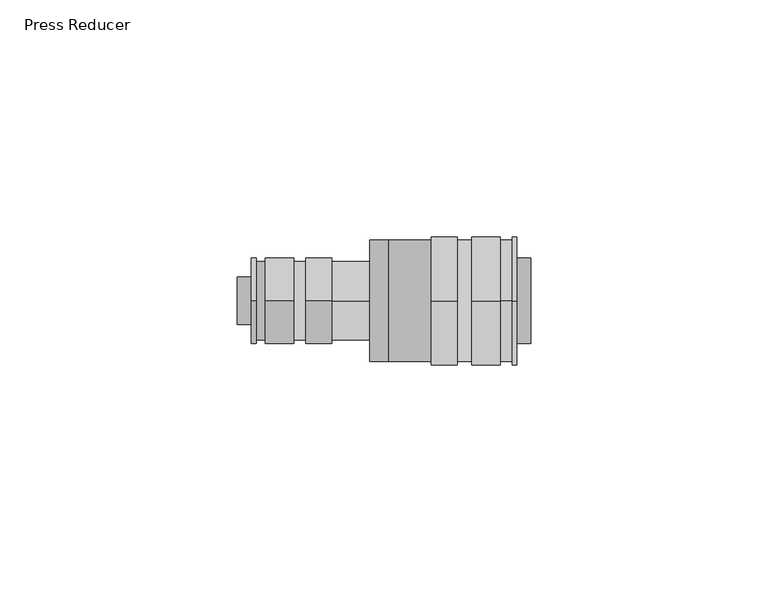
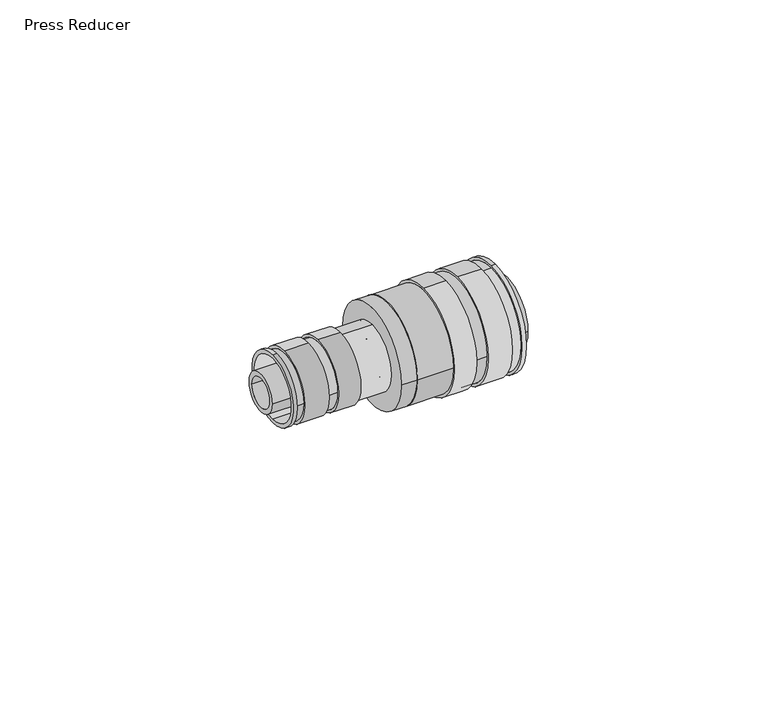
"""IFC4 building model written with IfcOpenShell, lengths in millimetres: pipe fitting geometry, Press Reducer : Superpipe Press Reducer."""

import ifcopenshell
import ifcopenshell.guid

model = None  # the IFC model being written
_history = None  # IfcOwnerHistory: only IFC2X3 demands one
_inside = {}  # id of a spatial element -> (the spatial element, [elements in it])
_under = {}  # id of a project, library or spatial element -> (it, [spatial elements below it])
_declared = {}  # id of a project -> (the project, [libraries it declares])
_typed = {}  # id of a type object -> (the type object, [elements of that type])
_made_of = {}  # id of a material, layer set ... -> (it, [elements and type objects made of it])


def new_model(schema):
    """Start an empty IFC model of exactly this schema.

    Asked for "IFC4X3", IfcOpenShell would pick the latest addendum, in which some entities
    have other attributes; the version numbers below select the first issue.
    IFC2X3 requires an IfcOwnerHistory on every rooted entity: one is made here for all.
    """
    global model, _history
    if schema == "IFC4X3":
        model = ifcopenshell.file(schema_version=(4, 3, 0, 0))
    else:
        model = ifcopenshell.file(schema=schema)
    _inside.clear()
    _under.clear()
    _declared.clear()
    _typed.clear()
    _made_of.clear()
    _history = None
    if model.schema == "IFC2X3":
        org = make("IfcOrganization", Name="unknown")
        user = make(
            "IfcPersonAndOrganization",
            ThePerson=make("IfcPerson", FamilyName="unknown"),
            TheOrganization=org,
        )
        app = make(
            "IfcApplication",
            ApplicationDeveloper=org,
            Version="unknown",
            ApplicationFullName="unknown",
            ApplicationIdentifier="unknown",
        )
        _history = make(
            "IfcOwnerHistory",
            OwningUser=user,
            OwningApplication=app,
            ChangeAction="ADDED",
            CreationDate=0,
        )
    return model


def make(cls, **values):
    """One entity of the class cls with the attributes given. An attribute that is None is left unset."""
    return model.create_entity(
        cls, **{name: value for name, value in values.items() if value is not None}
    )


def rooted(cls, **values):
    """An entity with a GlobalId (a new one), such as an element, a storey or a relation."""
    return make(cls, GlobalId=ifcopenshell.guid.new(), OwnerHistory=_history, **values)


def si_unit(unit_type, name, prefix=None):
    """IfcSIUnit, for example si_unit("LENGTHUNIT", "METRE", prefix="MILLI")."""
    return make("IfcSIUnit", UnitType=unit_type, Prefix=prefix, Name=name)


def assignment(units):
    """IfcUnitAssignment: the units of a project."""
    return None if units is None else make("IfcUnitAssignment", Units=units)


def point(xyz):
    """IfcCartesianPoint."""
    return None if xyz is None else make("IfcCartesianPoint", Coordinates=xyz)


def direction(xyz):
    """IfcDirection."""
    return None if xyz is None else make("IfcDirection", DirectionRatios=xyz)


def frame(location, z_axis=None, x_axis=None):
    """IfcAxis2Placement3D, a coordinate frame: its origin and axes. An axis left out is left unset."""
    return make(
        "IfcAxis2Placement3D",
        Location=point(location),
        Axis=direction(z_axis),
        RefDirection=direction(x_axis),
    )


def frame_2d(location, x_axis=None):
    """IfcAxis2Placement2D, a coordinate frame in the plane: its origin and x axis."""
    return make(
        "IfcAxis2Placement2D", Location=point(location), RefDirection=direction(x_axis)
    )


def origin():
    """The frame at (0, 0, 0) with its axes left unset."""
    return frame((0.0, 0.0, 0.0))


def place(relative_to, where):
    """IfcLocalPlacement: puts the frame where relative to a parent placement (None: the world)."""
    return make(
        "IfcLocalPlacement", PlacementRelTo=relative_to, RelativePlacement=where
    )


def context(
    kind, dimensions, precision=None, world=None, true_north=None, identifier=None
):
    """IfcGeometricRepresentationContext, for example the 3D "Model" context."""
    return make(
        "IfcGeometricRepresentationContext",
        ContextIdentifier=identifier,
        ContextType=kind,
        CoordinateSpaceDimension=dimensions,
        Precision=precision,
        WorldCoordinateSystem=world,
        TrueNorth=true_north,
    )


def project(units=None, contexts=None):
    """IfcProject with its units and contexts."""
    return rooted(
        "IfcProject",
        Name="project",
        RepresentationContexts=contexts,
        UnitsInContext=assignment(units),
    )


def spatial(cls, under=None, at=None, **own):
    """A site, building, storey or space (cls), placed at a placement, below another one or the project."""
    s = rooted(cls, ObjectPlacement=at, **own)
    if under is not None:
        _under.setdefault(under.id(), (under, []))[1].append(s)
    return s


def polyline(points):
    """IfcPolyline through the points."""
    return make("IfcPolyline", Points=[point(p) for p in points])


def circle_curve(where, radius):
    """IfcCircle in the frame where."""
    return make("IfcCircle", Position=where, Radius=radius)


def trimmed(basis, trim1, trim2, sense, master):
    """IfcTrimmedCurve: the piece of a basis curve between two trims."""
    return make(
        "IfcTrimmedCurve",
        BasisCurve=basis,
        Trim1=trim1,
        Trim2=trim2,
        SenseAgreement=sense,
        MasterRepresentation=master,
    )


def segment(curve, same_sense, transition):
    """IfcCompositeCurveSegment."""
    return make(
        "IfcCompositeCurveSegment",
        Transition=transition,
        SameSense=same_sense,
        ParentCurve=curve,
    )


def composite_curve(segments, self_intersect=None):
    """IfcCompositeCurve: segments joined end to end."""
    return make("IfcCompositeCurve", Segments=segments, SelfIntersect=self_intersect)


def outline(outer, holes=None, kind="AREA"):
    """IfcArbitraryClosedProfileDef: a profile drawn as a closed curve; with holes, ...WithVoids."""
    if holes is None:
        return make("IfcArbitraryClosedProfileDef", ProfileType=kind, OuterCurve=outer)
    return make(
        "IfcArbitraryProfileDefWithVoids",
        ProfileType=kind,
        OuterCurve=outer,
        InnerCurves=holes,
    )


def extrude(swept, where, along, depth):
    """IfcExtrudedAreaSolid: the profile swept, set in the frame where, extruded along a direction by depth."""
    return make(
        "IfcExtrudedAreaSolid",
        SweptArea=swept,
        Position=where,
        ExtrudedDirection=direction(along),
        Depth=depth,
    )


def shape(context_of_items, identifier, shape_type, items):
    """IfcShapeRepresentation: the items that make up one representation, for example the "Body"."""
    return make(
        "IfcShapeRepresentation",
        ContextOfItems=context_of_items,
        RepresentationIdentifier=identifier,
        RepresentationType=shape_type,
        Items=items,
    )


def source(mapping_origin, context_of_items, identifier, shape_type, items):
    """IfcRepresentationMap: a shape defined once, which mapped items show again and again."""
    return make(
        "IfcRepresentationMap",
        MappingOrigin=mapping_origin,
        MappedRepresentation=shape(context_of_items, identifier, shape_type, items),
    )


def transform(
    local_origin,
    x_axis=None,
    y_axis=None,
    z_axis=None,
    scale=None,
    scale2=None,
    scale3=None,
    uniform=True,
):
    """IfcCartesianTransformationOperator3D, or its non-uniform kind. x_axis, y_axis, z_axis: its Axis1, 2, 3."""
    if uniform:
        return make(
            "IfcCartesianTransformationOperator3D",
            Axis1=direction(x_axis),
            Axis2=direction(y_axis),
            LocalOrigin=point(local_origin),
            Scale=scale,
            Axis3=direction(z_axis),
        )
    return make(
        "IfcCartesianTransformationOperator3DnonUniform",
        Axis1=direction(x_axis),
        Axis2=direction(y_axis),
        LocalOrigin=point(local_origin),
        Scale=scale,
        Axis3=direction(z_axis),
        Scale2=scale2,
        Scale3=scale3,
    )


def mapped(mapping_source, mapping_target):
    """IfcMappedItem: shows the shape of a source again, moved by a transform."""
    return make(
        "IfcMappedItem", MappingSource=mapping_source, MappingTarget=mapping_target
    )


def made_of(thing, what):
    """Note that an element or type object is made of a material, layer set ...; save() writes the relation."""
    if what is not None:
        _made_of.setdefault(what.id(), (what, []))[1].append(thing)
    return thing


def element(
    cls,
    number,
    at=None,
    inside=None,
    cuts=None,
    type_object=None,
    material=None,
    context=None,
    identifier="Body",
    shape_type=None,
    held_by="IfcProductDefinitionShape",
    body=None,
    shapes=None,
    **own,
):
    """One element of the class cls, such as IfcWall. Its Tag is "e" and its number.

    at: its placement. inside: the storey or other place that contains it. cuts: it is an
    opening in that element (IfcRelVoidsElement). A single representation is given by context,
    identifier, shape_type and body (its items); several are given by shapes. held_by: the class
    of the entity that holds the representations. save() writes the other relations.
    """
    e = rooted(cls, Tag="e%d" % number, ObjectPlacement=at, **own)
    if body is not None:
        shapes = [shape(context, identifier, shape_type, body)]
    if shapes is not None:
        e.Representation = make(held_by, Representations=shapes)
    if inside is not None:
        _inside.setdefault(inside.id(), (inside, []))[1].append(e)
    if cuts is not None:
        rooted(
            "IfcRelVoidsElement", RelatingBuildingElement=cuts, RelatedOpeningElement=e
        )
    if type_object is not None:
        _typed.setdefault(type_object.id(), (type_object, []))[1].append(e)
    return made_of(e, material)


def aggregate(whole, parts):
    """IfcRelAggregates: a whole, such as a stair, and the parts it consists of."""
    return rooted("IfcRelAggregates", RelatingObject=whole, RelatedObjects=parts)


def save(model, path):
    """Write the relations noted so far, then the file.

    IfcRelAggregates (storeys below a building ...), IfcRelContainedInSpatialStructure (elements
    in a storey), IfcRelDefinesByType, IfcRelAssociatesMaterial and IfcRelDeclares: one each for
    every whole, place, type object, material and project.
    """
    for whole, parts in _under.values():
        aggregate(whole, parts)
    for where, things in _inside.values():
        rooted(
            "IfcRelContainedInSpatialStructure",
            RelatedElements=things,
            RelatingStructure=where,
        )
    for kind, things in _typed.values():
        rooted("IfcRelDefinesByType", RelatedObjects=things, RelatingType=kind)
    for what, things in _made_of.values():
        rooted("IfcRelAssociatesMaterial", RelatedObjects=things, RelatingMaterial=what)
    for by, libraries in _declared.values():
        rooted("IfcRelDeclares", RelatingContext=by, RelatedDefinitions=libraries)
    model.write(path)


def plane_surface(at):
    """IfcPlane: the flat surface through the origin of the frame at, square to its z axis."""
    return make("IfcPlane", Position=at)


def cylinder_surface(at, radius):
    """IfcCylindricalSurface: all points at the distance radius from the z axis of the frame at."""
    return make("IfcCylindricalSurface", Position=at, Radius=radius)


def revolved_surface(curve, axis_point, axis_direction):
    """IfcSurfaceOfRevolution: the curve turned about the line through axis_point along axis_direction."""
    return make(
        "IfcSurfaceOfRevolution",
        SweptCurve=make("IfcArbitraryOpenProfileDef", ProfileType="CURVE", Curve=curve),
        AxisPosition=make("IfcAxis1Placement", Location=point(axis_point), Axis=direction(axis_direction)),
    )


def advanced_brep(points, edges, surfaces, faces):
    """IfcAdvancedBrep: a solid bounded by faces that lie on surfaces and meet in shared edges.

    An edge is (start, end): straight between two places in points (the first is 0);
    or (start, end, curve); or (start, end, curve, False) where it runs against its curve.
    A face is (place in surfaces, loops), or (place, loops, False) where it looks against
    its surface's normal. A loop lists edges by number (the first is 1), with a minus sign
    where the edge is run from its end to its start. The first loop is the outer one.
    """
    corners = [point(p) for p in points]
    vertices = [make("IfcVertexPoint", VertexGeometry=c) for c in corners]
    made = []
    for start, end, *more in edges:
        made.append(
            make(
                "IfcEdgeCurve",
                EdgeStart=vertices[start],
                EdgeEnd=vertices[end],
                EdgeGeometry=more[0] if more else make("IfcPolyline", Points=[corners[start], corners[end]]),
                SameSense=more[1] if len(more) > 1 else True,
            )
        )
    hull = []
    for where, loops, *sense in faces:
        bounds = []
        for j, loop in enumerate(loops):
            ring = [make("IfcOrientedEdge", EdgeElement=made[abs(k) - 1], Orientation=k > 0) for k in loop]
            bounds.append(
                make(
                    "IfcFaceOuterBound" if j == 0 else "IfcFaceBound",
                    Bound=make("IfcEdgeLoop", EdgeList=ring),
                    Orientation=True,
                )
            )
        hull.append(make("IfcAdvancedFace", Bounds=bounds, FaceSurface=surfaces[where], SameSense=sense[0] if sense else True))
    return make("IfcAdvancedBrep", Outer=make("IfcClosedShell", CfsFaces=hull))


def press_reducer_23957c26(model_context):
    return source(origin(), model_context, "Body", "SolidModel", [
        advanced_brep(
        [(3.0, 0.0, -9.0), (3.0, 0.0, 9.0), (3.0, 0.0, -8.0), (3.0, 0.0, 8.0), (28.0, 0.0, -8.3), (28.0, 0.0, 8.3), (28.0, 0.0, -8.0), (28.0, 0.0, 8.0), (4.0, 0.0, -9.0), (4.0, -9.0, 0.0), (4.0, 0.0, 9.0), (20.0, 0.0, -9.0), (20.0, 0.0, 9.0), (14.5, 0.0, 9.0), (14.5, -9.0, 0.0), (14.5, 0.0, -9.0), (12.0, 0.0, -9.0), (12.0, -9.0, 0.0), (12.0, 0.0, 9.0), (6.0, 0.0, 9.0), (6.0, -9.0, 0.0), (6.0, 0.0, -9.0), (4.0, 9.0, 0.0), (14.5, 9.0, 0.0), (12.0, 9.0, 0.0), (6.0, 9.0, 0.0), (20.0, 0.0, -8.3), (20.0, 0.0, 8.3), (12.0, 8.3, 0.0), (12.0, -8.3, 0.0), (14.5, 8.3, 0.0), (14.5, -8.3, 0.0), (6.0, -8.3, 0.0), (6.0, 8.3, 0.0), (4.0, -8.3, 0.0), (4.0, 8.3, 0.0)],
        [
            (0, 1, circle_curve(frame((3.0, 0.0, 0.0), z_axis=(-1.0, 0.0, 0.0), x_axis=(0.0, 0.0, 1.0)), 9.0)),
            (1, 0, circle_curve(frame((3.0, 0.0, 0.0), z_axis=(-1.0, 0.0, 0.0), x_axis=(0.0, 0.0, 1.0)), 9.0)),
            (2, 3, circle_curve(frame((3.0, 0.0, 0.0), z_axis=(1.0, 0.0, 0.0), x_axis=(0.0, 0.0, 1.0)), 8.0)),
            (3, 2, circle_curve(frame((3.0, 0.0, 0.0), z_axis=(1.0, 0.0, 0.0), x_axis=(0.0, 0.0, 1.0)), 8.0)),
            (4, 5, circle_curve(frame((28.0, 0.0, 0.0), z_axis=(1.0, 0.0, 0.0), x_axis=(0.0, 0.0, 1.0)), 8.3)),
            (5, 4, circle_curve(frame((28.0, 0.0, 0.0), z_axis=(1.0, 0.0, 0.0), x_axis=(0.0, 0.0, 1.0)), 8.3)),
            (6, 7, circle_curve(frame((28.0, 0.0, 0.0), z_axis=(-1.0, 0.0, 0.0), x_axis=(0.0, 0.0, 1.0)), 8.0)),
            (7, 6, circle_curve(frame((28.0, 0.0, 0.0), z_axis=(-1.0, 0.0, 0.0), x_axis=(0.0, 0.0, 1.0)), 8.0)),
            (0, 8),
            (8, 9, circle_curve(frame((4.0, 0.0, 0.0), z_axis=(-1.0, 0.0, 0.0), x_axis=(0.0, 0.0, 1.0)), 9.0)),
            (9, 10, circle_curve(frame((4.0, 0.0, 0.0), z_axis=(-1.0, 0.0, 0.0), x_axis=(0.0, 0.0, 1.0)), 9.0)),
            (10, 1),
            (11, 12, circle_curve(frame((20.0, 0.0, 0.0), z_axis=(-1.0, 0.0, 0.0), x_axis=(0.0, 0.0, 1.0)), 9.0)),
            (12, 13),
            (13, 14, circle_curve(frame((14.5, 0.0, 0.0), z_axis=(1.0, 0.0, 0.0), x_axis=(0.0, 0.0, 1.0)), 9.0)),
            (14, 15, circle_curve(frame((14.5, 0.0, 0.0), z_axis=(1.0, 0.0, 0.0), x_axis=(0.0, 0.0, 1.0)), 9.0)),
            (15, 11),
            (16, 17, circle_curve(frame((12.0, 0.0, 0.0), z_axis=(-1.0, 0.0, 0.0), x_axis=(0.0, 0.0, 1.0)), 9.0)),
            (17, 18, circle_curve(frame((12.0, 0.0, 0.0), z_axis=(-1.0, 0.0, 0.0), x_axis=(0.0, 0.0, 1.0)), 9.0)),
            (18, 19),
            (19, 20, circle_curve(frame((6.0, 0.0, 0.0), z_axis=(1.0, 0.0, 0.0), x_axis=(0.0, 0.0, 1.0)), 9.0)),
            (20, 21, circle_curve(frame((6.0, 0.0, 0.0), z_axis=(1.0, 0.0, 0.0), x_axis=(0.0, 0.0, 1.0)), 9.0)),
            (21, 16),
            (10, 22, circle_curve(frame((4.0, 0.0, 0.0), z_axis=(-1.0, 0.0, 0.0), x_axis=(0.0, 0.0, 1.0)), 9.0)),
            (22, 8, circle_curve(frame((4.0, 0.0, 0.0), z_axis=(-1.0, 0.0, 0.0), x_axis=(0.0, 0.0, 1.0)), 9.0)),
            (12, 11, circle_curve(frame((20.0, 0.0, 0.0), z_axis=(-1.0, 0.0, 0.0), x_axis=(0.0, 0.0, 1.0)), 9.0)),
            (15, 23, circle_curve(frame((14.5, 0.0, 0.0), z_axis=(1.0, 0.0, 0.0), x_axis=(0.0, 0.0, 1.0)), 9.0)),
            (23, 13, circle_curve(frame((14.5, 0.0, 0.0), z_axis=(1.0, 0.0, 0.0), x_axis=(0.0, 0.0, 1.0)), 9.0)),
            (24, 16, circle_curve(frame((12.0, 0.0, 0.0), z_axis=(-1.0, 0.0, 0.0), x_axis=(0.0, 0.0, 1.0)), 9.0)),
            (21, 25, circle_curve(frame((6.0, 0.0, 0.0), z_axis=(1.0, 0.0, 0.0), x_axis=(0.0, 0.0, 1.0)), 9.0)),
            (25, 19, circle_curve(frame((6.0, 0.0, 0.0), z_axis=(1.0, 0.0, 0.0), x_axis=(0.0, 0.0, 1.0)), 9.0)),
            (18, 24, circle_curve(frame((12.0, 0.0, 0.0), z_axis=(-1.0, 0.0, 0.0), x_axis=(0.0, 0.0, 1.0)), 9.0)),
            (2, 6),
            (7, 3),
            (26, 27, circle_curve(frame((20.0, 0.0, 0.0), z_axis=(-1.0, 0.0, 0.0), x_axis=(0.0, 0.0, 1.0)), 8.3)),
            (27, 26, circle_curve(frame((20.0, 0.0, 0.0), z_axis=(-1.0, 0.0, 0.0), x_axis=(0.0, 0.0, 1.0)), 8.3)),
            (27, 5),
            (4, 26),
            (28, 29, circle_curve(frame((12.0, 0.0, 0.0), z_axis=(-1.0, 0.0, 0.0), x_axis=(0.0, -1.0, 0.0)), 8.3)),
            (29, 28, circle_curve(frame((12.0, 0.0, 0.0), z_axis=(-1.0, 0.0, 0.0), x_axis=(0.0, -1.0, 0.0)), 8.3)),
            (30, 31, circle_curve(frame((14.5, 0.0, 0.0), z_axis=(1.0, 0.0, 0.0), x_axis=(0.0, -1.0, 0.0)), 8.3)),
            (31, 30, circle_curve(frame((14.5, 0.0, 0.0), z_axis=(1.0, 0.0, 0.0), x_axis=(0.0, -1.0, 0.0)), 8.3)),
            (29, 31),
            (30, 28),
            (32, 33, circle_curve(frame((6.0, 0.0, 0.0), z_axis=(1.0, 0.0, 0.0), x_axis=(0.0, 1.0, 0.0)), 8.3)),
            (33, 32, circle_curve(frame((6.0, 0.0, 0.0), z_axis=(1.0, 0.0, 0.0), x_axis=(0.0, 1.0, 0.0)), 8.3)),
            (34, 35, circle_curve(frame((4.0, 0.0, 0.0), z_axis=(-1.0, 0.0, 0.0), x_axis=(0.0, 1.0, 0.0)), 8.3)),
            (35, 34, circle_curve(frame((4.0, 0.0, 0.0), z_axis=(-1.0, 0.0, 0.0), x_axis=(0.0, 1.0, 0.0)), 8.3)),
            (33, 35),
            (34, 32),
        ],
        [
            plane_surface(frame((3.0, 0.0, 9.0), z_axis=(-1.0, 0.0, 0.0), x_axis=(0.0, 1.0, 0.0))),
            plane_surface(frame((28.0, 0.0, 9.0), z_axis=(1.0, 0.0, 0.0), x_axis=(0.0, -1.0, 0.0))),
            cylinder_surface(frame((28.0, 0.0, 0.0), z_axis=(-1.0, 0.0, 0.0), x_axis=(0.0, 0.0, 1.0)), 9.0),
            revolved_surface(polyline([(28.0, 0.0, 8.0), (3.0, 0.0, 8.0)]), (28.0, 0.0, 0.0), (1.0, 0.0, 0.0)),
            plane_surface(frame((20.0, 0.0, 9.0), z_axis=(1.0, 0.0, 0.0), x_axis=(0.0, 1.0, 0.0))),
            cylinder_surface(frame((28.0, 0.0, 0.0), z_axis=(1.0, 0.0, 0.0), x_axis=(0.0, 0.0, 1.0)), 8.3),
            plane_surface(frame((12.0, -9.0, 0.0), z_axis=(1.0, 0.0, 0.0), x_axis=(0.0, 0.0, 1.0))),
            plane_surface(frame((14.5, -9.0, 0.0), z_axis=(-1.0, 0.0, 0.0), x_axis=(0.0, 0.0, -1.0))),
            cylinder_surface(frame((14.5, 0.0, 0.0), z_axis=(1.0, 0.0, 0.0), x_axis=(0.0, -1.0, 0.0)), 8.3),
            plane_surface(frame((6.0, 9.0, 0.0), z_axis=(-1.0, 0.0, 0.0), x_axis=(0.0, 0.0, 1.0))),
            plane_surface(frame((4.0, 9.0, 0.0), z_axis=(1.0, 0.0, 0.0), x_axis=(0.0, 0.0, -1.0))),
            cylinder_surface(frame((3.0, 0.0, 0.0), z_axis=(-1.0, 0.0, 0.0), x_axis=(0.0, 1.0, 0.0)), 8.3),
        ],
        [
            (0, [[1, 2], [3, 4]]),
            (1, [[5, 6], [7, 8]]),
            (2, [[-1, 9, 10, 11, 12]]),
            (2, [[13, 14, 15, 16, 17]]),
            (2, [[18, 19, 20, 21, 22, 23]]),
            (2, [[-2, -12, 24, 25, -9]]),
            (2, [[26, -17, 27, 28, -14]]),
            (2, [[29, -23, 30, 31, -20, 32]]),
            (3, [[-3, 33, -8, 34]]),
            (3, [[-4, -34, -7, -33]]),
            (4, [[-13, -26], [35, 36]]),
            (5, [[-36, 37, -5, 38]]),
            (5, [[-35, -38, -6, -37]]),
            (6, [[-18, -29, -32, -19], [39, 40]]),
            (7, [[-16, -15, -28, -27], [41, 42]]),
            (8, [[-40, 43, -41, 44]]),
            (8, [[-39, -44, -42, -43]]),
            (9, [[-22, -21, -31, -30], [45, 46]]),
            (10, [[-10, -25, -24, -11], [47, 48]]),
            (11, [[-46, 49, -47, 50]]),
            (11, [[-45, -50, -48, -49]]),
        ],
    ),
        advanced_brep(
        [(59.0, 0.0, -13.5), (59.0, 0.0, 13.5), (59.0, 0.0, -12.5), (59.0, 0.0, 12.5), (32.0, -12.8, 0.0), (32.0, 12.8, 0.0), (32.0, 0.0, -12.5), (32.0, 0.0, 12.5), (58.0, 0.0, -13.5), (58.0, 0.0, 13.5), (41.0, 0.0, -13.5), (41.0, 13.5, 0.0), (41.0, 0.0, 13.5), (46.5, 0.0, 13.5), (46.5, 13.5, 0.0), (46.5, 0.0, -13.5), (55.5, 0.0, 13.5), (55.5, 0.0, -13.5), (49.5, 0.0, -13.5), (49.5, 13.5, 0.0), (49.5, 0.0, 13.5), (41.0, -13.5, 0.0), (46.5, -13.5, 0.0), (49.5, -13.5, 0.0), (41.0, -12.8, 0.0), (41.0, 12.8, 0.0), (55.5, 0.0, 12.8), (55.5, 0.0, -12.8), (58.0, 0.0, 12.8), (58.0, 0.0, -12.8), (46.5, 12.8, 0.0), (46.5, -12.8, 0.0), (49.5, 12.8, 0.0), (49.5, -12.8, 0.0)],
        [
            (0, 1, circle_curve(frame((59.0, 0.0, 0.0), z_axis=(1.0, 0.0, 0.0), x_axis=(0.0, 0.0, 1.0)), 13.5)),
            (1, 0, circle_curve(frame((59.0, 0.0, 0.0), z_axis=(1.0, 0.0, 0.0), x_axis=(0.0, 0.0, 1.0)), 13.5)),
            (2, 3, circle_curve(frame((59.0, 0.0, 0.0), z_axis=(-1.0, 0.0, 0.0), x_axis=(0.0, 0.0, 1.0)), 12.5)),
            (3, 2, circle_curve(frame((59.0, 0.0, 0.0), z_axis=(-1.0, 0.0, 0.0), x_axis=(0.0, 0.0, 1.0)), 12.5)),
            (4, 5, circle_curve(frame((32.0, 0.0, 0.0), z_axis=(-1.0, 0.0, 0.0), x_axis=(0.0, 1.0, 0.0)), 12.8)),
            (5, 4, circle_curve(frame((32.0, 0.0, 0.0), z_axis=(-1.0, 0.0, 0.0), x_axis=(0.0, 1.0, 0.0)), 12.8)),
            (6, 7, circle_curve(frame((32.0, 0.0, 0.0), z_axis=(1.0, 0.0, 0.0), x_axis=(0.0, 0.0, 1.0)), 12.5)),
            (7, 6, circle_curve(frame((32.0, 0.0, 0.0), z_axis=(1.0, 0.0, 0.0), x_axis=(0.0, 0.0, 1.0)), 12.5)),
            (0, 8),
            (8, 9, circle_curve(frame((58.0, 0.0, 0.0), z_axis=(1.0, 0.0, 0.0), x_axis=(0.0, 0.0, 1.0)), 13.5)),
            (9, 1),
            (10, 11, circle_curve(frame((41.0, 0.0, 0.0), z_axis=(1.0, 0.0, 0.0), x_axis=(0.0, 0.0, 1.0)), 13.5)),
            (11, 12, circle_curve(frame((41.0, 0.0, 0.0), z_axis=(1.0, 0.0, 0.0), x_axis=(0.0, 0.0, 1.0)), 13.5)),
            (12, 13),
            (13, 14, circle_curve(frame((46.5, 0.0, 0.0), z_axis=(-1.0, 0.0, 0.0), x_axis=(0.0, 0.0, 1.0)), 13.5)),
            (14, 15, circle_curve(frame((46.5, 0.0, 0.0), z_axis=(-1.0, 0.0, 0.0), x_axis=(0.0, 0.0, 1.0)), 13.5)),
            (15, 10),
            (16, 17, circle_curve(frame((55.5, 0.0, 0.0), z_axis=(-1.0, 0.0, 0.0), x_axis=(0.0, 0.0, 1.0)), 13.5)),
            (17, 18),
            (18, 19, circle_curve(frame((49.5, 0.0, 0.0), z_axis=(1.0, 0.0, 0.0), x_axis=(0.0, 0.0, 1.0)), 13.5)),
            (19, 20, circle_curve(frame((49.5, 0.0, 0.0), z_axis=(1.0, 0.0, 0.0), x_axis=(0.0, 0.0, 1.0)), 13.5)),
            (20, 16),
            (9, 8, circle_curve(frame((58.0, 0.0, 0.0), z_axis=(1.0, 0.0, 0.0), x_axis=(0.0, 0.0, 1.0)), 13.5)),
            (21, 10, circle_curve(frame((41.0, 0.0, 0.0), z_axis=(1.0, 0.0, 0.0), x_axis=(0.0, 0.0, 1.0)), 13.5)),
            (15, 22, circle_curve(frame((46.5, 0.0, 0.0), z_axis=(-1.0, 0.0, 0.0), x_axis=(0.0, 0.0, 1.0)), 13.5)),
            (22, 13, circle_curve(frame((46.5, 0.0, 0.0), z_axis=(-1.0, 0.0, 0.0), x_axis=(0.0, 0.0, 1.0)), 13.5)),
            (12, 21, circle_curve(frame((41.0, 0.0, 0.0), z_axis=(1.0, 0.0, 0.0), x_axis=(0.0, 0.0, 1.0)), 13.5)),
            (17, 16, circle_curve(frame((55.5, 0.0, 0.0), z_axis=(-1.0, 0.0, 0.0), x_axis=(0.0, 0.0, 1.0)), 13.5)),
            (20, 23, circle_curve(frame((49.5, 0.0, 0.0), z_axis=(1.0, 0.0, 0.0), x_axis=(0.0, 0.0, 1.0)), 13.5)),
            (23, 18, circle_curve(frame((49.5, 0.0, 0.0), z_axis=(1.0, 0.0, 0.0), x_axis=(0.0, 0.0, 1.0)), 13.5)),
            (2, 6),
            (7, 3),
            (24, 25, circle_curve(frame((41.0, 0.0, 0.0), z_axis=(1.0, 0.0, 0.0), x_axis=(0.0, 1.0, 0.0)), 12.8)),
            (25, 24, circle_curve(frame((41.0, 0.0, 0.0), z_axis=(1.0, 0.0, 0.0), x_axis=(0.0, 1.0, 0.0)), 12.8)),
            (25, 5),
            (4, 24),
            (26, 27, circle_curve(frame((55.5, 0.0, 0.0), z_axis=(-1.0, 0.0, 0.0), x_axis=(0.0, 0.0, -1.0)), 12.8)),
            (27, 26, circle_curve(frame((55.5, 0.0, 0.0), z_axis=(-1.0, 0.0, 0.0), x_axis=(0.0, 0.0, -1.0)), 12.8)),
            (28, 29, circle_curve(frame((58.0, 0.0, 0.0), z_axis=(1.0, 0.0, 0.0), x_axis=(0.0, 0.0, -1.0)), 12.8)),
            (29, 28, circle_curve(frame((58.0, 0.0, 0.0), z_axis=(1.0, 0.0, 0.0), x_axis=(0.0, 0.0, -1.0)), 12.8)),
            (27, 29),
            (28, 26),
            (30, 31, circle_curve(frame((46.5, 0.0, 0.0), z_axis=(-1.0, 0.0, 0.0), x_axis=(0.0, -1.0, 0.0)), 12.8)),
            (31, 30, circle_curve(frame((46.5, 0.0, 0.0), z_axis=(-1.0, 0.0, 0.0), x_axis=(0.0, -1.0, 0.0)), 12.8)),
            (32, 33, circle_curve(frame((49.5, 0.0, 0.0), z_axis=(1.0, 0.0, 0.0), x_axis=(0.0, -1.0, 0.0)), 12.8)),
            (33, 32, circle_curve(frame((49.5, 0.0, 0.0), z_axis=(1.0, 0.0, 0.0), x_axis=(0.0, -1.0, 0.0)), 12.8)),
            (31, 33),
            (32, 30),
        ],
        [
            plane_surface(frame((59.0, 0.0, 13.5), z_axis=(1.0, 0.0, 0.0), x_axis=(0.0, -1.0, 0.0))),
            plane_surface(frame((32.0, 0.0, 13.5), z_axis=(-1.0, 0.0, 0.0), x_axis=(0.0, 1.0, 0.0))),
            cylinder_surface(frame((32.0, 0.0, 0.0), z_axis=(1.0, 0.0, 0.0), x_axis=(0.0, 0.0, 1.0)), 13.5),
            revolved_surface(polyline([(32.0, 0.0, 12.5), (59.0, 0.0, 12.5)]), (32.0, 0.0, 0.0), (-1.0, 0.0, 0.0)),
            plane_surface(frame((41.0, 13.5, 0.0), z_axis=(-1.0, 0.0, 0.0), x_axis=(0.0, 0.0, 1.0))),
            cylinder_surface(frame((32.0, 0.0, 0.0), z_axis=(-1.0, 0.0, 0.0), x_axis=(0.0, 1.0, 0.0)), 12.8),
            plane_surface(frame((55.5, 0.0, -13.5), z_axis=(1.0, 0.0, 0.0), x_axis=(0.0, -1.0, 0.0))),
            plane_surface(frame((58.0, 0.0, -13.5), z_axis=(-1.0, 0.0, 0.0), x_axis=(0.0, 1.0, 0.0))),
            cylinder_surface(frame((59.0, 0.0, 0.0), z_axis=(1.0, 0.0, 0.0), x_axis=(0.0, 0.0, -1.0)), 12.8),
            plane_surface(frame((46.5, -13.5, 0.0), z_axis=(1.0, 0.0, 0.0), x_axis=(0.0, 0.0, 1.0))),
            plane_surface(frame((49.5, -13.5, 0.0), z_axis=(-1.0, 0.0, 0.0), x_axis=(0.0, 0.0, -1.0))),
            cylinder_surface(frame((46.5, 0.0, 0.0), z_axis=(1.0, 0.0, 0.0), x_axis=(0.0, -1.0, 0.0)), 12.8),
        ],
        [
            (0, [[1, 2], [3, 4]]),
            (1, [[5, 6], [7, 8]]),
            (2, [[-1, 9, 10, 11]]),
            (2, [[12, 13, 14, 15, 16, 17]]),
            (2, [[18, 19, 20, 21, 22]]),
            (2, [[-2, -11, 23, -9]]),
            (2, [[24, -17, 25, 26, -14, 27]]),
            (2, [[28, -22, 29, 30, -19]]),
            (3, [[-3, 31, -8, 32]]),
            (3, [[-4, -32, -7, -31]]),
            (4, [[-12, -24, -27, -13], [33, 34]]),
            (5, [[-34, 35, -5, 36]]),
            (5, [[-33, -36, -6, -35]]),
            (6, [[-18, -28], [37, 38]]),
            (7, [[-10, -23], [39, 40]]),
            (8, [[-38, 41, -39, 42]]),
            (8, [[-37, -42, -40, -41]]),
            (9, [[-16, -15, -26, -25], [43, 44]]),
            (10, [[-20, -30, -29, -21], [45, 46]]),
            (11, [[-44, 47, -45, 48]]),
            (11, [[-43, -48, -46, -47]]),
        ],
    ),
        extrude(outline(composite_curve([segment(trimmed(circle_curve(frame_2d((-0.000673, 0.0)), 9.0), [point((-9.000673, 0.0))], [point((8.999327, 0.0))], False, "CARTESIAN"), True, "CONTINUOUS"), segment(trimmed(circle_curve(frame_2d((-0.000673, 0.0)), 9.0), [point((8.999327, 0.0))], [point((-9.000673, 0.0))], False, "CARTESIAN"), True, "CONTINUOUS")], self_intersect=False), holes=[composite_curve([segment(trimmed(circle_curve(frame_2d((-0.000673, 0.0)), 7.0), [point((6.999327, 0.0))], [point((-7.000673, 0.0))], True, "CARTESIAN"), True, "CONTINUOUS"), segment(trimmed(circle_curve(frame_2d((-0.000673, 0.0)), 7.0), [point((-7.000673, 0.0))], [point((6.999327, 0.0))], True, "CARTESIAN"), True, "CONTINUOUS")], self_intersect=False)]), frame((32.0, 0.0, 0.0), z_axis=(1.0, 0.0, 0.0), x_axis=(0.0, 1.0, 0.0)), (0.0, 0.0, 1.0), 30.0),
        extrude(outline(composite_curve([segment(trimmed(circle_curve(frame_2d((-0.000673, 0.0)), 12.8), [point((-12.800673, 0.0))], [point((12.799327, 0.0))], False, "CARTESIAN"), True, "CONTINUOUS"), segment(trimmed(circle_curve(frame_2d((-0.000673, 0.0)), 12.8), [point((12.799327, 0.0))], [point((-12.800673, 0.0))], False, "CARTESIAN"), True, "CONTINUOUS")], self_intersect=False), holes=[composite_curve([segment(trimmed(circle_curve(frame_2d((-0.000673, 0.0)), 7.0), [point((6.999327, 0.0))], [point((-7.000673, 0.0))], True, "CARTESIAN"), True, "CONTINUOUS"), segment(trimmed(circle_curve(frame_2d((-0.000673, 0.0)), 7.0), [point((-7.000673, 0.0))], [point((6.999327, 0.0))], True, "CARTESIAN"), True, "CONTINUOUS")], self_intersect=False)]), frame((28.0, 0.0, 0.0), z_axis=(1.0, 0.0, 0.0), x_axis=(0.0, 1.0, 0.0)), (0.0, 0.0, 1.0), 4.0),
        extrude(outline(composite_curve([segment(trimmed(circle_curve(frame_2d((-0.000673, 0.0)), 5.0), [point((-5.000673, 0.0))], [point((4.999327, 0.0))], False, "CARTESIAN"), True, "CONTINUOUS"), segment(trimmed(circle_curve(frame_2d((-0.000673, 0.0)), 5.0), [point((4.999327, 0.0))], [point((-5.000673, 0.0))], False, "CARTESIAN"), True, "CONTINUOUS")], self_intersect=False), holes=[composite_curve([segment(trimmed(circle_curve(frame_2d((-0.000673, 0.0)), 3.8), [point((3.799327, 0.0))], [point((-3.800673, 0.0))], True, "CARTESIAN"), True, "CONTINUOUS"), segment(trimmed(circle_curve(frame_2d((-0.000673, 0.0)), 3.8), [point((-3.800673, 0.0))], [point((3.799327, 0.0))], True, "CARTESIAN"), True, "CONTINUOUS")], self_intersect=False)]), frame((0.0, 0.0, 0.0), z_axis=(1.0, 0.0, 0.0), x_axis=(0.0, 1.0, 0.0)), (0.0, 0.0, 1.0), 28.0),
    ])


if __name__ == "__main__":
    model = new_model("IFC4")
    model_context = context("Model", 3, world=origin())
    ifc_project = project(units=[si_unit("LENGTHUNIT", "METRE", prefix="MILLI")], contexts=[model_context])
    site = spatial("IfcSite", under=ifc_project)
    building = spatial("IfcBuilding", under=site)
    placement = place(None, origin())
    press_reducer_shape = press_reducer_23957c26(model_context)
    element("IfcPipeFitting", 1, ObjectType="Press Reducer : Superpipe Press Reducer", at=placement, inside=building, context=model_context, shape_type="MappedRepresentation", body=[
        mapped(press_reducer_shape, transform((0.0, 0.0, 0.0), x_axis=(1.0, 0.0, 0.0), y_axis=(0.0, 1.0, 0.0), z_axis=(0.0, 0.0, 1.0))),
    ])
    save(model, "model.ifc")
